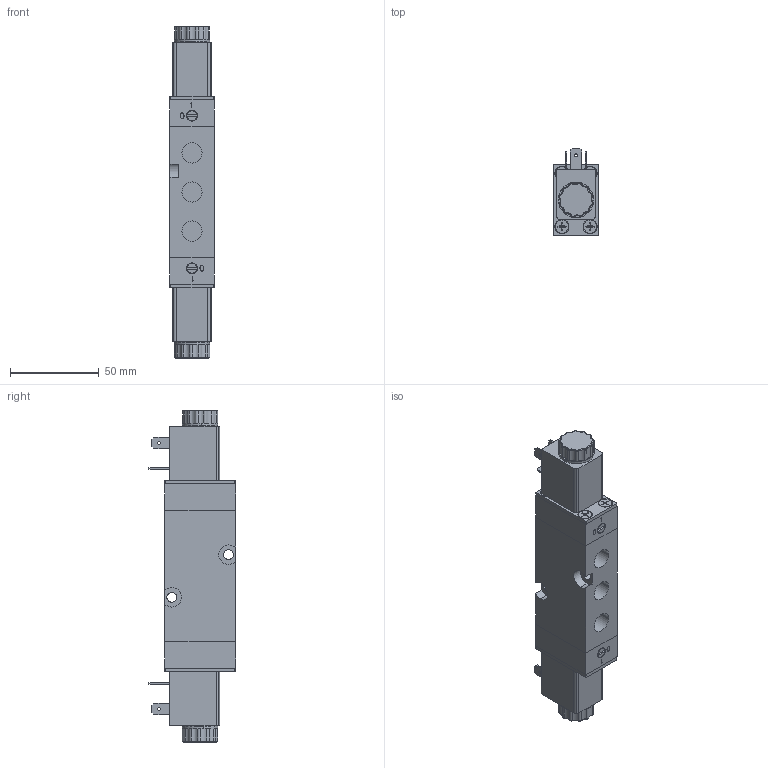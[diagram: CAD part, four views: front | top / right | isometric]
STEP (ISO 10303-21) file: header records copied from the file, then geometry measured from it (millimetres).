
FILE_DESCRIPTION (( 'STEP AP214' ), '1' );
FILE_NAME ('ICKN-55-520-HN-F12_Airtec.step', '2019-01-08T09:18:59', ( '' ), ( '' ), 'SwSTEP 2.0', 'SolidWorks 2010', '' );
FILE_SCHEMA (( 'AUTOMOTIVE_DESIGN' ));
Length unit declared in the file: millimetre
Products named in the file (3): Volumenkörper6; Volumenkörper1; ICKN-55-520-HN-F12_Airtec
Assembly tree (3 placements, depth 2):
  ICKN-55-520-HN-F12_Airtec
    Volumenkörper6
    Volumenkörper1  x2
Bounding box: 25 x 49.2 x 187.2 mm (x, y, z)
Volume: 144025.1 mm3; surface area: 35302.1 mm2
Topology: 3 solids, 3 shells, 853 faces, 2188 edges, 1391 vertices
Faces by surface type: plane 327, cylinder 224, cone 154, torus 116, bspline 32
Entity records: 33506 total; most frequent: CARTESIAN_POINT 8072, DIRECTION 4168, ORIENTED_EDGE 4132, EDGE_CURVE 2066, AXIS2_PLACEMENT_3D 1637, VERTEX_POINT 1314, LINE 894, VECTOR 894
